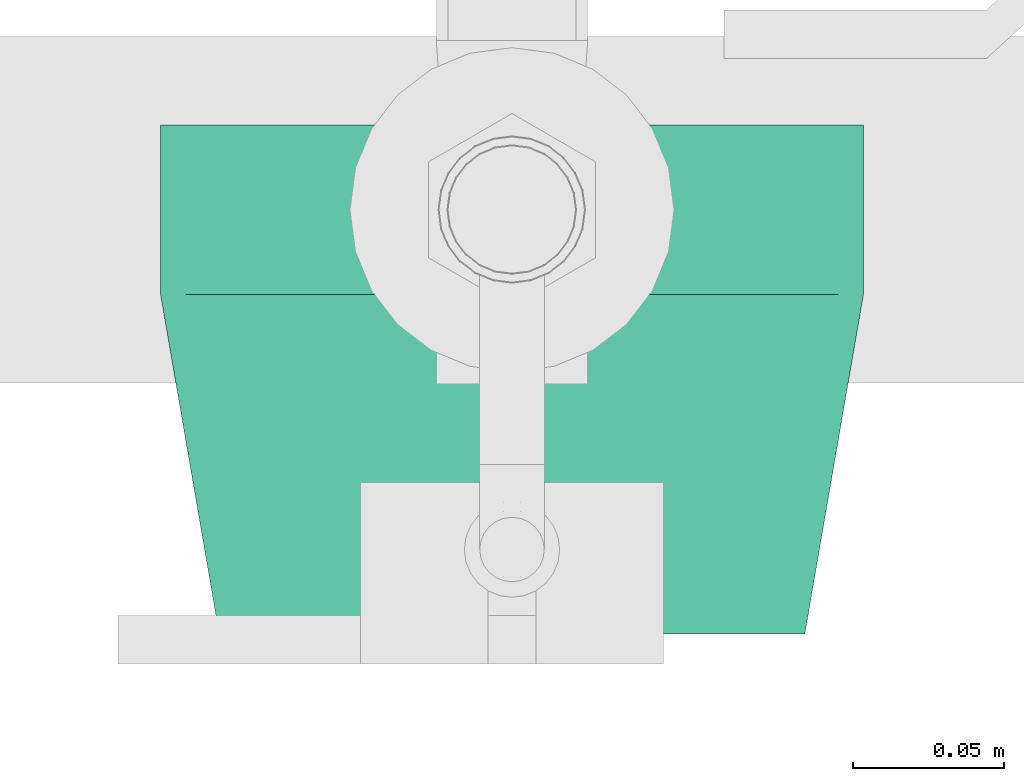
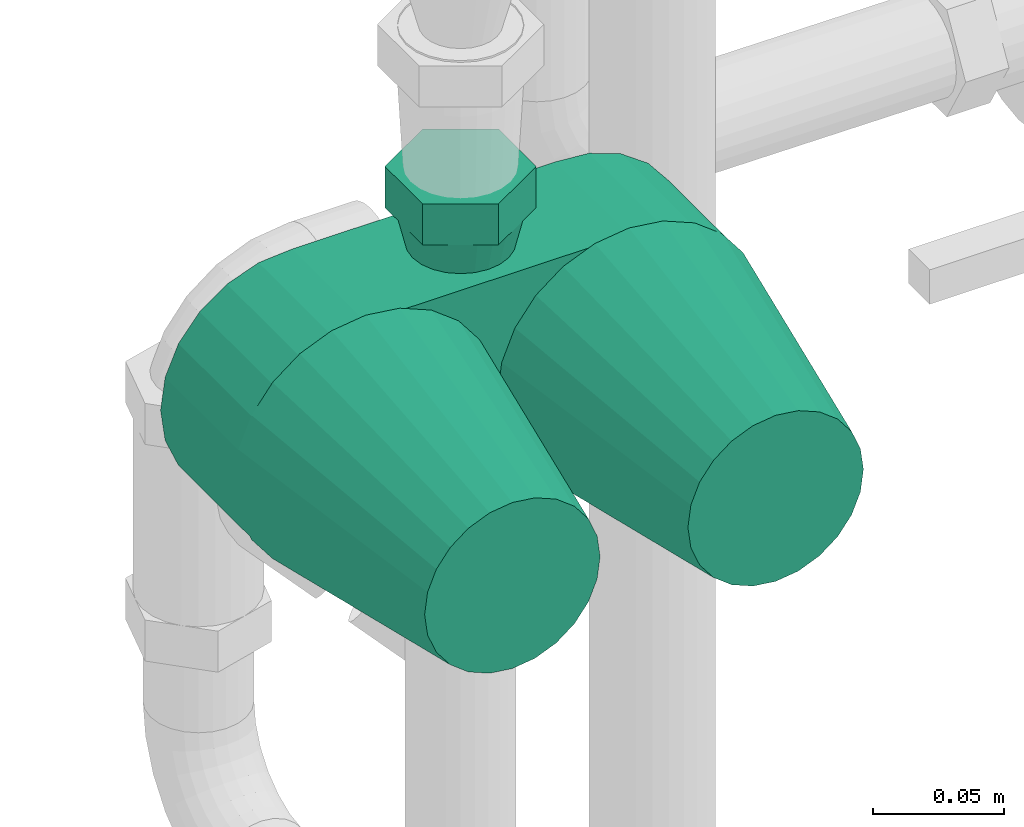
# One storey, part 253 of 374: 1 flow moving device.
"""IFC2X3 building model written with IfcOpenShell, lengths in metres."""

import ifcopenshell
import ifcopenshell.guid

model = None  # the IFC model being written
_history = None  # IfcOwnerHistory: only IFC2X3 demands one
_inside = {}  # id of a spatial element -> (the spatial element, [elements in it])
_under = {}  # id of a project, library or spatial element -> (it, [spatial elements below it])
_declared = {}  # id of a project -> (the project, [libraries it declares])
_typed = {}  # id of a type object -> (the type object, [elements of that type])
_made_of = {}  # id of a material, layer set ... -> (it, [elements and type objects made of it])


def new_model(schema):
    """Start an empty IFC model of exactly this schema.

    Asked for "IFC4X3", IfcOpenShell would pick the latest addendum, in which some entities
    have other attributes; the version numbers below select the first issue.
    IFC2X3 requires an IfcOwnerHistory on every rooted entity: one is made here for all.
    """
    global model, _history
    if schema == "IFC4X3":
        model = ifcopenshell.file(schema_version=(4, 3, 0, 0))
    else:
        model = ifcopenshell.file(schema=schema)
    _inside.clear()
    _under.clear()
    _declared.clear()
    _typed.clear()
    _made_of.clear()
    _history = None
    if model.schema == "IFC2X3":
        org = make("IfcOrganization", Name="unknown")
        user = make(
            "IfcPersonAndOrganization",
            ThePerson=make("IfcPerson", FamilyName="unknown"),
            TheOrganization=org,
        )
        app = make(
            "IfcApplication",
            ApplicationDeveloper=org,
            Version="unknown",
            ApplicationFullName="unknown",
            ApplicationIdentifier="unknown",
        )
        _history = make(
            "IfcOwnerHistory",
            OwningUser=user,
            OwningApplication=app,
            ChangeAction="ADDED",
            CreationDate=0,
        )
    return model


def make(cls, **values):
    """One entity of the class cls with the attributes given. An attribute that is None is left unset."""
    return model.create_entity(
        cls, **{name: value for name, value in values.items() if value is not None}
    )


def rooted(cls, **values):
    """An entity with a GlobalId (a new one), such as an element, a storey or a relation."""
    return make(cls, GlobalId=ifcopenshell.guid.new(), OwnerHistory=_history, **values)


def si_unit(unit_type, name, prefix=None):
    """IfcSIUnit, for example si_unit("LENGTHUNIT", "METRE", prefix="MILLI")."""
    return make("IfcSIUnit", UnitType=unit_type, Prefix=prefix, Name=name)


def assignment(units):
    """IfcUnitAssignment: the units of a project."""
    return None if units is None else make("IfcUnitAssignment", Units=units)


def point(xyz):
    """IfcCartesianPoint."""
    return None if xyz is None else make("IfcCartesianPoint", Coordinates=xyz)


def direction(xyz):
    """IfcDirection."""
    return None if xyz is None else make("IfcDirection", DirectionRatios=xyz)


def frame(location, z_axis=None, x_axis=None):
    """IfcAxis2Placement3D, a coordinate frame: its origin and axes. An axis left out is left unset."""
    return make(
        "IfcAxis2Placement3D",
        Location=point(location),
        Axis=direction(z_axis),
        RefDirection=direction(x_axis),
    )


def origin():
    """The frame at (0, 0, 0) with its axes left unset."""
    return frame((0.0, 0.0, 0.0))


def place(relative_to, where):
    """IfcLocalPlacement: puts the frame where relative to a parent placement (None: the world)."""
    return make(
        "IfcLocalPlacement", PlacementRelTo=relative_to, RelativePlacement=where
    )


def context(
    kind, dimensions, precision=None, world=None, true_north=None, identifier=None
):
    """IfcGeometricRepresentationContext, for example the 3D "Model" context."""
    return make(
        "IfcGeometricRepresentationContext",
        ContextIdentifier=identifier,
        ContextType=kind,
        CoordinateSpaceDimension=dimensions,
        Precision=precision,
        WorldCoordinateSystem=world,
        TrueNorth=true_north,
    )


def subcontext(parent, identifier, kind, view, scale=None):
    """IfcGeometricRepresentationSubContext, for example "Body" below "Model"."""
    return make(
        "IfcGeometricRepresentationSubContext",
        ContextIdentifier=identifier,
        ContextType=kind,
        ParentContext=parent,
        TargetScale=scale,
        TargetView=view,
    )


def project(units=None, contexts=None):
    """IfcProject with its units and contexts."""
    return rooted(
        "IfcProject",
        Name="project",
        RepresentationContexts=contexts,
        UnitsInContext=assignment(units),
    )


def spatial(cls, under=None, at=None, **own):
    """A site, building, storey or space (cls), placed at a placement, below another one or the project."""
    s = rooted(cls, ObjectPlacement=at, **own)
    if under is not None:
        _under.setdefault(under.id(), (under, []))[1].append(s)
    return s


def faces_of(points, faces, orient=None, outer=None):
    """IfcFace entities. A face is a list of loops; a loop is a list of indices into points, from 0.

    orient and outer hold one flag for each loop. By default every Orientation is true, the
    first loop of a face is its IfcFaceOuterBound and the others are IfcFaceBound.
    """
    made = []
    for i, loops in enumerate(faces):
        bounds = []
        for j, loop in enumerate(loops):
            is_outer = j == 0 if outer is None else outer[i][j]
            bounds.append(
                make(
                    "IfcFaceOuterBound" if is_outer else "IfcFaceBound",
                    Bound=make("IfcPolyLoop", Polygon=[points[k] for k in loop]),
                    Orientation=True if orient is None else orient[i][j],
                )
            )
        made.append(make("IfcFace", Bounds=bounds))
    return made


def open_shell(faces, orient=None, outer=None):
    """The faces of one IfcOpenShell. surface_model builds it on its shared points."""
    return ("IfcOpenShell", faces, orient, outer)


def surface_model(cls, points, shells):
    """IfcFaceBasedSurfaceModel or IfcShellBasedSurfaceModel (cls): surfaces that need not close."""
    shared = [point(p) for p in points]
    made = [make(c, CfsFaces=faces_of(shared, fs, o, b)) for c, fs, o, b in shells]
    if cls == "IfcFaceBasedSurfaceModel":
        return make(cls, FbsmFaces=made)
    return make(cls, SbsmBoundary=made)


def shape(context_of_items, identifier, shape_type, items):
    """IfcShapeRepresentation: the items that make up one representation, for example the "Body"."""
    return make(
        "IfcShapeRepresentation",
        ContextOfItems=context_of_items,
        RepresentationIdentifier=identifier,
        RepresentationType=shape_type,
        Items=items,
    )


def source(mapping_origin, context_of_items, identifier, shape_type, items):
    """IfcRepresentationMap: a shape defined once, which mapped items show again and again."""
    return make(
        "IfcRepresentationMap",
        MappingOrigin=mapping_origin,
        MappedRepresentation=shape(context_of_items, identifier, shape_type, items),
    )


def transform(
    local_origin,
    x_axis=None,
    y_axis=None,
    z_axis=None,
    scale=None,
    scale2=None,
    scale3=None,
    uniform=True,
):
    """IfcCartesianTransformationOperator3D, or its non-uniform kind. x_axis, y_axis, z_axis: its Axis1, 2, 3."""
    if uniform:
        return make(
            "IfcCartesianTransformationOperator3D",
            Axis1=direction(x_axis),
            Axis2=direction(y_axis),
            LocalOrigin=point(local_origin),
            Scale=scale,
            Axis3=direction(z_axis),
        )
    return make(
        "IfcCartesianTransformationOperator3DnonUniform",
        Axis1=direction(x_axis),
        Axis2=direction(y_axis),
        LocalOrigin=point(local_origin),
        Scale=scale,
        Axis3=direction(z_axis),
        Scale2=scale2,
        Scale3=scale3,
    )


def mapped(mapping_source, mapping_target):
    """IfcMappedItem: shows the shape of a source again, moved by a transform."""
    return make(
        "IfcMappedItem", MappingSource=mapping_source, MappingTarget=mapping_target
    )


def made_of(thing, what):
    """Note that an element or type object is made of a material, layer set ...; save() writes the relation."""
    if what is not None:
        _made_of.setdefault(what.id(), (what, []))[1].append(thing)
    return thing


def element(
    cls,
    number,
    at=None,
    inside=None,
    cuts=None,
    type_object=None,
    material=None,
    context=None,
    identifier="Body",
    shape_type=None,
    held_by="IfcProductDefinitionShape",
    body=None,
    shapes=None,
    **own,
):
    """One element of the class cls, such as IfcWall. Its Tag is "e" and its number.

    at: its placement. inside: the storey or other place that contains it. cuts: it is an
    opening in that element (IfcRelVoidsElement). A single representation is given by context,
    identifier, shape_type and body (its items); several are given by shapes. held_by: the class
    of the entity that holds the representations. save() writes the other relations.
    """
    e = rooted(cls, Tag="e%d" % number, ObjectPlacement=at, **own)
    if body is not None:
        shapes = [shape(context, identifier, shape_type, body)]
    if shapes is not None:
        e.Representation = make(held_by, Representations=shapes)
    if inside is not None:
        _inside.setdefault(inside.id(), (inside, []))[1].append(e)
    if cuts is not None:
        rooted(
            "IfcRelVoidsElement", RelatingBuildingElement=cuts, RelatedOpeningElement=e
        )
    if type_object is not None:
        _typed.setdefault(type_object.id(), (type_object, []))[1].append(e)
    return made_of(e, material)


def aggregate(whole, parts):
    """IfcRelAggregates: a whole, such as a stair, and the parts it consists of."""
    return rooted("IfcRelAggregates", RelatingObject=whole, RelatedObjects=parts)


def save(model, path):
    """Write the relations noted so far, then the file.

    IfcRelAggregates (storeys below a building ...), IfcRelContainedInSpatialStructure (elements
    in a storey), IfcRelDefinesByType, IfcRelAssociatesMaterial and IfcRelDeclares: one each for
    every whole, place, type object, material and project.
    """
    for whole, parts in _under.values():
        aggregate(whole, parts)
    for where, things in _inside.values():
        rooted(
            "IfcRelContainedInSpatialStructure",
            RelatedElements=things,
            RelatingStructure=where,
        )
    for kind, things in _typed.values():
        rooted("IfcRelDefinesByType", RelatedObjects=things, RelatingType=kind)
    for what, things in _made_of.values():
        rooted("IfcRelAssociatesMaterial", RelatedObjects=things, RelatingMaterial=what)
    for by, libraries in _declared.values():
        rooted("IfcRelDeclares", RelatingContext=by, RelatedDefinitions=libraries)
    model.write(path)


model = new_model("IFC2X3")

# Units and contexts
model_context = context("Model", 3, precision=1e-05, world=origin(), true_north=direction((-0.4480736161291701, 0.8939966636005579)))
body_context = subcontext(model_context, "Body", "Model", "MODEL_VIEW")
ifc_project = project(units=[si_unit("LENGTHUNIT", "METRE"), si_unit("AREAUNIT", "SQUARE_METRE"), si_unit("VOLUMEUNIT", "CUBIC_METRE"), si_unit("PLANEANGLEUNIT", "RADIAN"), si_unit("THERMODYNAMICTEMPERATUREUNIT", "KELVIN"), si_unit("MASSUNIT", "GRAM", prefix="KILO"), si_unit("TIMEUNIT", "SECOND")], contexts=[model_context])

# Site, building, storey
site_placement = place(None, origin())
site = spatial("IfcSite", under=ifc_project, at=site_placement, Name="Site 1", CompositionType="ELEMENT")
building_placement = place(site_placement, origin())
building = spatial("IfcBuilding", under=site, at=building_placement, Name="Undefined", CompositionType="ELEMENT")
storey_placement = place(building_placement, origin())
storey = spatial("IfcBuildingStorey", under=building, at=storey_placement, Name="Rez de chauss\x8ee", CompositionType="ELEMENT", Elevation=0.0)

# Flow moving device
shared_shape = source(origin(), body_context, "Body", "SurfaceModel", [
    surface_model("IfcFaceBasedSurfaceModel", [(0.0, 0.0, 0.0), (0.028867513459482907, 0.0, 0.0), (0.028867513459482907, 0.019099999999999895, 0.0), (0.0, 0.019099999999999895, 0.0), (-0.014433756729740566, 0.0, 0.02499999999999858), (-0.014433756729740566, 0.019099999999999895, 0.02499999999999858), (0.0, 0.0, 0.04999999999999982), (0.0, 0.019099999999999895, 0.04999999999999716), (0.028867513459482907, 0.0, 0.04999999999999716), (0.028867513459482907, 0.019099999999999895, 0.04999999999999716), (0.04330127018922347, 0.0, 0.02499999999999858), (0.04330127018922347, 0.019099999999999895, 0.02499999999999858), (-0.010566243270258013, 0.019099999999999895, 0.02499999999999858), (-0.00971438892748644, 0.019099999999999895, 0.03147047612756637), (-0.006043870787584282, 0.03509999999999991, 0.0304869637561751), (-0.006766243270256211, 0.03509999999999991, 0.02499999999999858), (-0.007216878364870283, 0.019099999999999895, 0.03750000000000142), (-0.003925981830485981, 0.03509999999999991, 0.035600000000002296), (-0.0032439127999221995, 0.019099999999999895, 0.04267766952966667), (-0.0005569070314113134, 0.03509999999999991, 0.03999066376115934), (0.001933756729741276, 0.019099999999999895, 0.04665063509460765), (0.003833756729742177, 0.03509999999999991, 0.04335973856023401), (0.007963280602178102, 0.019099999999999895, 0.04914814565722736), (0.008946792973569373, 0.03509999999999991, 0.04547762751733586), (0.014433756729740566, 0.019099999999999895, 0.04999999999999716), (0.014433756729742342, 0.03509999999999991, 0.046200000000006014), (0.02090423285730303, 0.019099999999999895, 0.04914814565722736), (0.019920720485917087, 0.03509999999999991, 0.04547762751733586), (0.02693375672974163, 0.019099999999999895, 0.04665063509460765), (0.025033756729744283, 0.03509999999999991, 0.04335973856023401), (0.03211142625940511, 0.019099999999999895, 0.04267766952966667), (0.029424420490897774, 0.03509999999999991, 0.03999066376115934), (0.03608439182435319, 0.019099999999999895, 0.03750000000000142), (0.03279349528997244, 0.03509999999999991, 0.035600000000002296), (0.03858190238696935, 0.019099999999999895, 0.03147047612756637), (0.03491138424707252, 0.03509999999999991, 0.0304869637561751), (0.03943375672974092, 0.019099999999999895, 0.02499999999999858), (0.03563375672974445, 0.03509999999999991, 0.02499999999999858), (0.03858190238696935, 0.019099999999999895, 0.018529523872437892), (0.03491138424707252, 0.03509999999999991, 0.019513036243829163), (0.03608439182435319, 0.019099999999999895, 0.012500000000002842), (0.03279349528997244, 0.03509999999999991, 0.014400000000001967), (0.03211142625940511, 0.019099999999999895, 0.00732233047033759), (0.029424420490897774, 0.03509999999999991, 0.010009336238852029), (0.02693375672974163, 0.019099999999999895, 0.003349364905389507), (0.025033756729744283, 0.03509999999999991, 0.006640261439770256), (0.02090423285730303, 0.019099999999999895, 0.0008518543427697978), (0.019920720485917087, 0.03509999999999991, 0.004522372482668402), (0.014433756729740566, 0.019099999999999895, 0.0), (0.014433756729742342, 0.03509999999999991, 0.0038000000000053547), (0.007963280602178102, 0.019099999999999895, 0.0008518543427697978), (0.008946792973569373, 0.03509999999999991, 0.004522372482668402), (0.001933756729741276, 0.019099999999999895, 0.003349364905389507), (0.003833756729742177, 0.03509999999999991, 0.006640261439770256), (-0.0032439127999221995, 0.019099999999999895, 0.00732233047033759), (-0.0005569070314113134, 0.03509999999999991, 0.010009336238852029), (-0.007216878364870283, 0.019099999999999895, 0.012500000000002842), (-0.003925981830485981, 0.03509999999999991, 0.014400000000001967), (-0.00971438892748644, 0.019099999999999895, 0.018529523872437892), (-0.006043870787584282, 0.03509999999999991, 0.019513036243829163), (-0.006766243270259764, 0.14490000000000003, 0.02499999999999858), (-0.006043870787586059, 0.14490000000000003, 0.030486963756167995), (-0.009714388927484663, 0.16090000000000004, 0.03147047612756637), (-0.010566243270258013, 0.16090000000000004, 0.025000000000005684), (-0.003925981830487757, 0.14490000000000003, 0.03559999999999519), (-0.007216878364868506, 0.16090000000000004, 0.03750000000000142), (-0.0005569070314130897, 0.14490000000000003, 0.03999066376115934), (-0.0032439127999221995, 0.16090000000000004, 0.04267766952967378), (0.0038337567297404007, 0.14490000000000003, 0.04335973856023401), (0.001933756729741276, 0.16090000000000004, 0.04665063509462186), (0.008946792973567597, 0.14490000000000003, 0.045477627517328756), (0.007963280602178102, 0.16090000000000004, 0.04914814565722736), (0.014433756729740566, 0.14490000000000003, 0.04619999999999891), (0.014433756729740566, 0.16090000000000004, 0.04999999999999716), (0.01992072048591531, 0.14490000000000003, 0.045477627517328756), (0.02090423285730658, 0.16090000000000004, 0.04914814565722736), (0.025033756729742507, 0.14490000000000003, 0.04335973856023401), (0.026933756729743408, 0.16090000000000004, 0.04665063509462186), (0.029424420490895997, 0.14490000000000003, 0.03999066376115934), (0.03211142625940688, 0.16090000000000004, 0.04267766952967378), (0.032793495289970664, 0.14490000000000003, 0.03559999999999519), (0.03608439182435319, 0.16090000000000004, 0.03750000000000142), (0.034911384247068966, 0.14490000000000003, 0.030486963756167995), (0.03858190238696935, 0.16090000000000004, 0.03147047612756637), (0.03563375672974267, 0.14490000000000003, 0.02499999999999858), (0.0394337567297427, 0.16090000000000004, 0.025000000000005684), (0.034911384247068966, 0.14490000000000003, 0.019513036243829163), (0.03858190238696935, 0.16090000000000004, 0.018529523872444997), (0.032793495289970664, 0.14490000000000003, 0.014400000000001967), (0.03608439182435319, 0.16090000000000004, 0.012500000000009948), (0.029424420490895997, 0.14490000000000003, 0.010009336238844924), (0.03211142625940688, 0.16090000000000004, 0.007322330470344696), (0.025033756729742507, 0.14490000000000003, 0.006640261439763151), (0.026933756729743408, 0.16090000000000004, 0.003349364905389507), (0.01992072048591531, 0.14490000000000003, 0.004522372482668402), (0.02090423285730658, 0.16090000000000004, 0.0008518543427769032), (0.014433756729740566, 0.14490000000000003, 0.0038000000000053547), (0.014433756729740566, 0.16090000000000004, 7.105427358e-15), (0.008946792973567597, 0.14490000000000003, 0.004522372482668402), (0.007963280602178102, 0.16090000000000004, 0.0008518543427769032), (0.0038337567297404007, 0.14490000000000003, 0.006640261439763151), (0.001933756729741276, 0.16090000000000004, 0.003349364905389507), (-0.0005569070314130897, 0.14490000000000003, 0.010009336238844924), (-0.0032439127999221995, 0.16090000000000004, 0.007322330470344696), (-0.003925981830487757, 0.14490000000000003, 0.014400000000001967), (-0.007216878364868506, 0.16090000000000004, 0.012500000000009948), (-0.006043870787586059, 0.14490000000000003, 0.019513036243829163), (-0.009714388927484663, 0.16090000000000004, 0.018529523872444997), (0.0, 0.16090000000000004, 0.0), (0.028867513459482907, 0.16090000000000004, 0.0), (0.028867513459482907, 0.17999999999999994, 0.0), (0.0, 0.17999999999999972, 0.0), (-0.014433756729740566, 0.16090000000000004, 0.02499999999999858), (-0.014433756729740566, 0.17999999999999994, 0.02499999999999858), (0.0, 0.16090000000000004, 0.04999999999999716), (0.0, 0.17999999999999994, 0.04999999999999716), (0.028867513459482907, 0.16090000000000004, 0.04999999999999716), (0.028867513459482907, 0.17999999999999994, 0.04999999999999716), (0.04330127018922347, 0.16090000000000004, 0.02499999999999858), (0.04330127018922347, 0.17999999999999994, 0.02499999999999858), (0.042433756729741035, 0.03509999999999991, 0.08299999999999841), (0.042433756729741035, 0.03509999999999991, -0.03300000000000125), (-0.013566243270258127, 0.03509999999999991, -0.03300000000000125), (-0.013566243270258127, 0.03509999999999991, 0.08299999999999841), (0.042433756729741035, 0.14490000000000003, -0.03300000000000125), (0.042433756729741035, 0.1437046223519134, -0.04780387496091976), (-0.013566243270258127, 0.1437046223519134, -0.04780387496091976), (-0.013566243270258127, 0.14490000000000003, -0.03300000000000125), (0.042433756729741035, 0.13859064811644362, -0.061747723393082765), (-0.013566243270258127, 0.13859064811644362, -0.06174772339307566), (0.042433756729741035, 0.12993122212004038, -0.0738141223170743), (-0.013566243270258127, 0.12993122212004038, -0.0738141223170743), (0.042433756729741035, 0.11835818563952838, -0.08312263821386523), (-0.013566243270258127, 0.11835818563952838, -0.08312263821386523), (0.042433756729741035, 0.10471597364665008, -0.08899406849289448), (-0.013566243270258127, 0.10471597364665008, -0.08899406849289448), (0.042433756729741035, 0.09000000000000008, -0.09100000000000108), (-0.013566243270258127, 0.09000000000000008, -0.09100000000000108), (0.042433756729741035, 0.07528402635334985, -0.08899406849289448), (-0.013566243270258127, 0.07528402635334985, -0.08899406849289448), (0.042433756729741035, 0.06164181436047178, -0.08312263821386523), (-0.013566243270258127, 0.06164181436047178, -0.08312263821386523), (0.042433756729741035, 0.05006877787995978, -0.0738141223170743), (-0.013566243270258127, 0.05006877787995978, -0.0738141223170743), (0.042433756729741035, 0.04140935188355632, -0.061747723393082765), (-0.013566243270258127, 0.04140935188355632, -0.061747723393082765), (0.042433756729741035, 0.036295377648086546, -0.04780387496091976), (-0.013566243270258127, 0.036295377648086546, -0.04780387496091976), (0.042433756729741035, 0.14490000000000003, 0.08299999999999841), (-0.013566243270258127, 0.14490000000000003, 0.08299999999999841), (0.042433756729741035, 0.036295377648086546, 0.09780387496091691), (-0.013566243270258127, 0.036295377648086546, 0.09780387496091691), (0.042433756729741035, 0.04140935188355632, 0.11174772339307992), (-0.013566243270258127, 0.04140935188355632, 0.11174772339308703), (0.042433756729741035, 0.05006877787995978, 0.12381412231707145), (-0.013566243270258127, 0.05006877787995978, 0.12381412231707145), (0.042433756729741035, 0.06164181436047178, 0.1331226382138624), (-0.013566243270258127, 0.06164181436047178, 0.1331226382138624), (0.042433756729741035, 0.07528402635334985, 0.13899406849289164), (-0.013566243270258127, 0.07528402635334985, 0.13899406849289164), (0.042433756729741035, 0.09000000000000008, 0.14099999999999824), (-0.013566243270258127, 0.09000000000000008, 0.14099999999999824), (0.042433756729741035, 0.10471597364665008, 0.13899406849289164), (-0.013566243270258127, 0.10471597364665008, 0.13899406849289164), (0.042433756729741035, 0.11835818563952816, 0.1331226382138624), (-0.013566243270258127, 0.11835818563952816, 0.1331226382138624), (0.042433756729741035, 0.12993122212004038, 0.12381412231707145), (-0.013566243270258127, 0.12993122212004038, 0.12381412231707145), (0.042433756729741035, 0.13859064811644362, 0.11174772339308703), (-0.013566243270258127, 0.13859064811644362, 0.11174772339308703), (0.042433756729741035, 0.1437046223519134, 0.09780387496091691), (-0.013566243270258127, 0.1437046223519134, 0.09780387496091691), (0.042433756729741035, 0.1479999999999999, 0.08299999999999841), (0.042433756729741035, 0.146023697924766, 0.09801150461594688), (0.15443375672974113, 0.12734913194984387, 0.09300766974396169), (0.15443375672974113, 0.1286666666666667, 0.08299999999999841), (0.042433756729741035, 0.14022947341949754, 0.11200000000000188), (0.15443375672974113, 0.12348631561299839, 0.10233333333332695), (0.042433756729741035, 0.13101219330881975, 0.12401219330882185), (0.15443375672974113, 0.11734146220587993, 0.1103414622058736), (0.042433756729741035, 0.119, 0.13322947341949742), (0.15443375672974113, 0.1093333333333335, 0.11648631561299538), (0.042433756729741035, 0.10501150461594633, 0.1390236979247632), (0.15443375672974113, 0.10000766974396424, 0.12034913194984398), (0.15443375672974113, 0.09000000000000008, 0.12166666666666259), (0.042433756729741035, 0.07498849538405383, 0.1390236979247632), (0.15443375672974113, 0.07999233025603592, 0.12034913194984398), (0.042433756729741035, 0.06099999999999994, 0.13322947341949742), (0.15443375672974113, 0.07066666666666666, 0.11648631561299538), (0.042433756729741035, 0.04898780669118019, 0.12401219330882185), (0.15443375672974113, 0.06265853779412, 0.1103414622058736), (0.042433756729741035, 0.03977052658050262, 0.11200000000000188), (0.15443375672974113, 0.05651368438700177, 0.10233333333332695), (0.042433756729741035, 0.033976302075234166, 0.09801150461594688), (0.15443375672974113, 0.05265086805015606, 0.09300766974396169), (0.042433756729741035, 0.03200000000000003, 0.08299999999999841), (0.15443375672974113, 0.05133333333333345, 0.08299999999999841), (0.042433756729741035, 0.033976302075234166, 0.06798849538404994), (0.15443375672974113, 0.05265086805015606, 0.07299233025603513), (0.042433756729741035, 0.03977052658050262, 0.054000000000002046), (0.15443375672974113, 0.05651368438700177, 0.06366666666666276), (0.042433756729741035, 0.04898780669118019, 0.04198780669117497), (0.15443375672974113, 0.06265853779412, 0.055658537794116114), (0.042433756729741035, 0.06099999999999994, 0.0327705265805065), (0.15443375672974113, 0.07066666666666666, 0.04951368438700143), (0.042433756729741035, 0.07498849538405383, 0.026976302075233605), (0.15443375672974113, 0.07999233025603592, 0.04565086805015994), (0.042433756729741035, 0.09000000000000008, 0.02499999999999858), (0.15443375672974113, 0.09000000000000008, 0.04433333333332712), (0.042433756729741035, 0.10501150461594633, 0.026976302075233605), (0.15443375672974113, 0.10000766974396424, 0.04565086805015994), (0.042433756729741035, 0.119, 0.0327705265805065), (0.15443375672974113, 0.1093333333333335, 0.04951368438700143), (0.042433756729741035, 0.13101219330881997, 0.04198780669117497), (0.15443375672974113, 0.11734146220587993, 0.055658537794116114), (0.042433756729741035, 0.14022947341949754, 0.054000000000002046), (0.15443375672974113, 0.12348631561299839, 0.06366666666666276), (0.042433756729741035, 0.146023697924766, 0.06798849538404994), (0.15443375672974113, 0.12734913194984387, 0.07299233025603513), (0.15443375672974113, 0.09000000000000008, 0.08299999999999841), (0.042433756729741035, 0.1479999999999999, -0.03300000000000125), (0.042433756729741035, 0.146023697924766, -0.017988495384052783), (0.15443375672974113, 0.12734913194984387, -0.022992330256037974), (0.15443375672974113, 0.1286666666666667, -0.03300000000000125), (0.042433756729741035, 0.14022947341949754, -0.003999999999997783), (0.15443375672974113, 0.12348631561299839, -0.013666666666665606), (0.042433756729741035, 0.13101219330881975, 0.00801219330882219), (0.15443375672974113, 0.11734146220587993, -0.005658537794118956), (0.042433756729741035, 0.119, 0.017229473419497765), (0.15443375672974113, 0.1093333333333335, 0.0004863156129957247), (0.042433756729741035, 0.10501150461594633, 0.023023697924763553), (0.15443375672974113, 0.10000766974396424, 0.00434913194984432), (0.15443375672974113, 0.09000000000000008, 0.005666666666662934), (0.042433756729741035, 0.07498849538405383, 0.023023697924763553), (0.15443375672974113, 0.07999233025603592, 0.00434913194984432), (0.042433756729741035, 0.06099999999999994, 0.017229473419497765), (0.15443375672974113, 0.07066666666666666, 0.0004863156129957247), (0.042433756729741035, 0.04898780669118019, 0.00801219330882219), (0.15443375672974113, 0.06265853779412, -0.005658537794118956), (0.042433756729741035, 0.03977052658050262, -0.003999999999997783), (0.15443375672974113, 0.05651368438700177, -0.013666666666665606), (0.042433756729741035, 0.033976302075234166, -0.017988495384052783), (0.15443375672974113, 0.05265086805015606, -0.022992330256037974), (0.042433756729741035, 0.03200000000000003, -0.03300000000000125), (0.15443375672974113, 0.05133333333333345, -0.03300000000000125), (0.042433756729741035, 0.033976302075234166, -0.04801150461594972), (0.15443375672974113, 0.05265086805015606, -0.04300766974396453), (0.042433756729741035, 0.03977052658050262, -0.06199999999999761), (0.15443375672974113, 0.05651368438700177, -0.052333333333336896), (0.042433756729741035, 0.04898780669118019, -0.07401219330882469), (0.15443375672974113, 0.06265853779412, -0.060341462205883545), (0.042433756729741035, 0.06099999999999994, -0.08322947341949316), (0.15443375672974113, 0.07066666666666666, -0.06648631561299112), (0.042433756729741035, 0.07498849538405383, -0.08902369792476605), (0.15443375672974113, 0.07999233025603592, -0.07034913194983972), (0.15443375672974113, 0.09000000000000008, -0.07166666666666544), (0.042433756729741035, 0.10501150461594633, -0.08902369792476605), (0.15443375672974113, 0.10000766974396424, -0.07034913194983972), (0.042433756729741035, 0.119, -0.08322947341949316), (0.15443375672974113, 0.1093333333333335, -0.06648631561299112), (0.042433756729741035, 0.13101219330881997, -0.07401219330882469), (0.15443375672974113, 0.11734146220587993, -0.060341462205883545), (0.042433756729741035, 0.14022947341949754, -0.06199999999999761), (0.15443375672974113, 0.12348631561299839, -0.052333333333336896), (0.042433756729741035, 0.146023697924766, -0.04801150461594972), (0.15443375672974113, 0.12734913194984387, -0.04300766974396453), (0.15443375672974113, 0.09000000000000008, -0.03300000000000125)], [open_shell([[[0, 1, 2, 3]], [[4, 0, 3, 5]], [[6, 4, 5, 7]], [[8, 6, 7, 9]], [[10, 8, 9, 11]], [[1, 10, 11, 2]], [[1, 0, 4]], [[1, 4, 6]], [[1, 6, 8]], [[1, 8, 10]], [[2, 5, 3]], [[2, 7, 5]], [[2, 9, 7]], [[2, 11, 9]], [[12, 13, 14, 15]], [[13, 16, 17, 14]], [[16, 18, 19, 17]], [[18, 20, 21, 19]], [[20, 22, 23, 21]], [[22, 24, 25, 23]], [[24, 26, 27, 25]], [[26, 28, 29, 27]], [[28, 30, 31, 29]], [[30, 32, 33, 31]], [[32, 34, 35, 33]], [[34, 36, 37, 35]], [[36, 38, 39, 37]], [[38, 40, 41, 39]], [[40, 42, 43, 41]], [[42, 44, 45, 43]], [[44, 46, 47, 45]], [[46, 48, 49, 47]], [[48, 50, 51, 49]], [[50, 52, 53, 51]], [[52, 54, 55, 53]], [[54, 56, 57, 55]], [[56, 58, 59, 57]], [[58, 12, 15, 59]], [[60, 61, 62, 63]], [[61, 64, 65, 62]], [[64, 66, 67, 65]], [[66, 68, 69, 67]], [[68, 70, 71, 69]], [[70, 72, 73, 71]], [[72, 74, 75, 73]], [[74, 76, 77, 75]], [[76, 78, 79, 77]], [[78, 80, 81, 79]], [[80, 82, 83, 81]], [[82, 84, 85, 83]], [[84, 86, 87, 85]], [[86, 88, 89, 87]], [[88, 90, 91, 89]], [[90, 92, 93, 91]], [[92, 94, 95, 93]], [[94, 96, 97, 95]], [[96, 98, 99, 97]], [[98, 100, 101, 99]], [[100, 102, 103, 101]], [[102, 104, 105, 103]], [[104, 106, 107, 105]], [[106, 60, 63, 107]], [[108, 109, 110, 111]], [[112, 108, 111, 113]], [[114, 112, 113, 115]], [[116, 114, 115, 117]], [[118, 116, 117, 119]], [[109, 118, 119, 110]], [[109, 108, 112]], [[109, 112, 114]], [[109, 114, 116]], [[109, 116, 118]], [[110, 113, 111]], [[110, 115, 113]], [[110, 117, 115]], [[110, 119, 117]], [[120, 121, 122, 123]], [[124, 125, 126, 127]], [[125, 128, 129, 126]], [[128, 130, 131, 129]], [[130, 132, 133, 131]], [[132, 134, 135, 133]], [[134, 136, 137, 135]], [[136, 138, 139, 137]], [[138, 140, 141, 139]], [[140, 142, 143, 141]], [[142, 144, 145, 143]], [[144, 146, 147, 145]], [[146, 121, 122, 147]], [[124, 148, 149, 127]], [[120, 150, 151, 123]], [[150, 152, 153, 151]], [[152, 154, 155, 153]], [[154, 156, 157, 155]], [[156, 158, 159, 157]], [[158, 160, 161, 159]], [[160, 162, 163, 161]], [[162, 164, 165, 163]], [[164, 166, 167, 165]], [[166, 168, 169, 167]], [[168, 170, 171, 169]], [[170, 148, 149, 171]], [[147, 122, 123]], [[145, 147, 123]], [[143, 145, 123]], [[141, 143, 123]], [[139, 141, 123]], [[137, 139, 123]], [[135, 137, 123]], [[133, 135, 123]], [[131, 133, 123]], [[129, 131, 123]], [[126, 129, 123]], [[127, 126, 123]], [[149, 127, 123]], [[171, 149, 123]], [[169, 171, 123]], [[167, 169, 123]], [[165, 167, 123]], [[163, 165, 123]], [[161, 163, 123]], [[159, 161, 123]], [[157, 159, 123]], [[155, 157, 123]], [[153, 155, 123]], [[151, 153, 123]], [[120, 121, 146]], [[120, 146, 144]], [[120, 144, 142]], [[120, 142, 140]], [[120, 140, 138]], [[120, 138, 136]], [[120, 136, 134]], [[120, 134, 132]], [[120, 132, 130]], [[120, 130, 128]], [[120, 128, 125]], [[120, 125, 124]], [[120, 124, 148]], [[120, 148, 170]], [[120, 170, 168]], [[120, 168, 166]], [[120, 166, 164]], [[120, 164, 162]], [[120, 162, 160]], [[120, 160, 158]], [[120, 158, 156]], [[120, 156, 154]], [[120, 154, 152]], [[120, 152, 150]], [[172, 173, 174, 175]], [[173, 176, 177, 174]], [[176, 178, 179, 177]], [[178, 180, 181, 179]], [[180, 182, 183, 181]], [[182, 160, 184, 183]], [[160, 185, 186, 184]], [[185, 187, 188, 186]], [[187, 189, 190, 188]], [[189, 191, 192, 190]], [[191, 193, 194, 192]], [[193, 195, 196, 194]], [[195, 197, 198, 196]], [[197, 199, 200, 198]], [[199, 201, 202, 200]], [[201, 203, 204, 202]], [[203, 205, 206, 204]], [[205, 207, 208, 206]], [[207, 209, 210, 208]], [[209, 211, 212, 210]], [[211, 213, 214, 212]], [[213, 215, 216, 214]], [[215, 217, 218, 216]], [[217, 172, 175, 218]], [[219, 218, 175]], [[219, 216, 218]], [[219, 214, 216]], [[219, 212, 214]], [[219, 210, 212]], [[219, 208, 210]], [[219, 206, 208]], [[219, 204, 206]], [[219, 202, 204]], [[219, 200, 202]], [[219, 198, 200]], [[219, 196, 198]], [[219, 194, 196]], [[219, 192, 194]], [[219, 190, 192]], [[219, 188, 190]], [[219, 186, 188]], [[219, 184, 186]], [[219, 183, 184]], [[219, 181, 183]], [[219, 179, 181]], [[219, 177, 179]], [[219, 174, 177]], [[219, 175, 174]], [[220, 221, 222, 223]], [[221, 224, 225, 222]], [[224, 226, 227, 225]], [[226, 228, 229, 227]], [[228, 230, 231, 229]], [[230, 207, 232, 231]], [[207, 233, 234, 232]], [[233, 235, 236, 234]], [[235, 237, 238, 236]], [[237, 239, 240, 238]], [[239, 241, 242, 240]], [[241, 243, 244, 242]], [[243, 245, 246, 244]], [[245, 247, 248, 246]], [[247, 249, 250, 248]], [[249, 251, 252, 250]], [[251, 253, 254, 252]], [[253, 136, 255, 254]], [[136, 256, 257, 255]], [[256, 258, 259, 257]], [[258, 260, 261, 259]], [[260, 262, 263, 261]], [[262, 264, 265, 263]], [[264, 220, 223, 265]], [[266, 265, 223]], [[266, 263, 265]], [[266, 261, 263]], [[266, 259, 261]], [[266, 257, 259]], [[266, 255, 257]], [[266, 254, 255]], [[266, 252, 254]], [[266, 250, 252]], [[266, 248, 250]], [[266, 246, 248]], [[266, 244, 246]], [[266, 242, 244]], [[266, 240, 242]], [[266, 238, 240]], [[266, 236, 238]], [[266, 234, 236]], [[266, 232, 234]], [[266, 231, 232]], [[266, 229, 231]], [[266, 227, 229]], [[266, 225, 227]], [[266, 222, 225]], [[266, 223, 222]]])]),
])
flow_moving_device_placement = place(storey_placement, origin())
element("IfcFlowMovingDevice", 1, at=flow_moving_device_placement, inside=storey, Name="Pompe double", ObjectType="Pompe double", context=body_context, shape_type="MappedRepresentation", body=[
    mapped(shared_shape, transform((52.4825620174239, 10.732470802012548, 1.01), x_axis=(0.0, -1.0, 0.0), y_axis=(0.0, 0.0, 1.0), z_axis=(-1.0, 0.0, 0.0))),
])

save(model, "model.ifc")
